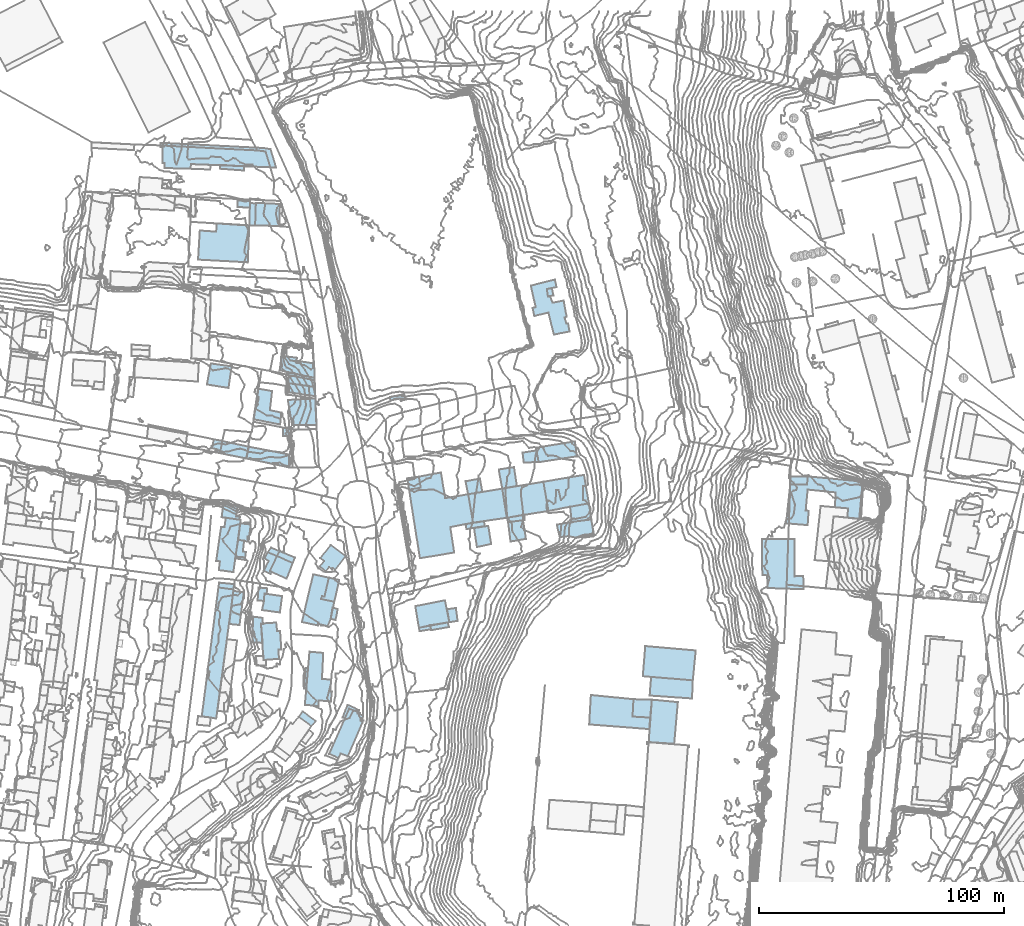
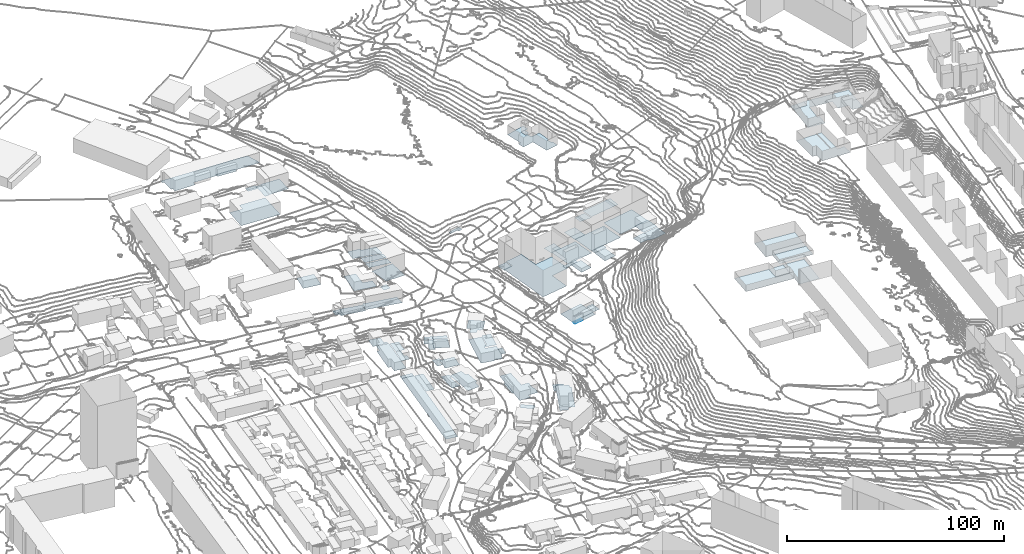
# Not in any storey, part 21 of 419: 70 footings.
"""IFC2X3 model written with IfcOpenShell, lengths in metres."""

from ifc_helpers import new_model, si_unit, frame, origin_with_axes, place, context, subcontext, project, faceted_brep, element, save


model = new_model("IFC2X3")

# Units and contexts
model_context = context("Model", 3, precision=1e-05, world=origin_with_axes())
body_context = subcontext(model_context, "Body", "Model", "MODEL_VIEW")
ifc_project = project(units=[si_unit("AREAUNIT", "SQUARE_METRE"), si_unit("LENGTHUNIT", "METRE")], contexts=[model_context])

# Footings
footing_1_placement = place(None, frame((586.9920204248, 808.9976909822, 41.813999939), z_axis=(0.0, 0.0, 1.0), x_axis=(1.0, 0.0, 0.0)))
element("IfcFooting", 1, at=footing_1_placement, Name="Sol 0", PredefinedType="STRIP_FOOTING", context=body_context, shape_type="Brep", body=[
    faceted_brep([(0.0, 0.0, 0.0), (1.2999999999, 7.6000000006, 0.0), (3.7, 7.2000000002, 0.0), (4.4, 2.6000000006, 0.0), (4.0, -0.5999999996, 0.0), (3.2, 2.8000000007, 0.0)], [[[0, 1, 2]], [[3, 4, 0]], [[0, 2, 5]], [[5, 3, 0]]]),
])
footing_2_placement = place(None, frame((615.4920204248, 749.1976909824, 45.7645987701), z_axis=(0.0, 0.0, 1.0), x_axis=(1.0, 0.0, 0.0)))
element("IfcFooting", 2, at=footing_2_placement, Name="Sol 0", PredefinedType="STRIP_FOOTING", context=body_context, shape_type="Brep", body=[
    faceted_brep([(0.0, 0.0, 0.0), (1.2999999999, 15.0, 0.0), (1.9, 21.7000000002, 0.0), (5.7, 1.7999999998, 0.0), (5.5, -0.5, 0.0), (11.0, 5.4000000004, 0.0), (10.6, 1.4000000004, 0.0), (7.0, 10.6000000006, 0.0), (10.7, 10.2999999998, 0.0), (10.4, 5.4000000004, 0.0), (7.5, 21.2000000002, 0.0)], [[[0, 1, 2]], [[3, 4, 0]], [[5, 6, 3]], [[7, 8, 9]], [[2, 10, 7]], [[3, 0, 2]], [[9, 5, 3]], [[3, 2, 7]], [[7, 9, 3]]]),
])
footing_3_placement = place(None, frame((625.3920204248, 729.1976909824, 48.9099983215), z_axis=(0.0, 0.0, 1.0), x_axis=(1.0, 0.0, 0.0)))
element("IfcFooting", 3, at=footing_3_placement, Name="Sol 0", PredefinedType="STRIP_FOOTING", context=body_context, shape_type="Brep", body=[
    faceted_brep([(14.0, 13.7000000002, 0.0), (7.6, -1.0, 0.0), (4.7, 0.1000000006, 0.0), (11.7, 16.5, 0.0), (13.8999999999, 15.5, 0.0), (13.2, 13.9000000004, 0.0), (8.2, 18.4000000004, 0.0), (11.8999999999, 17.0, 0.0), (3.7, -1.7000000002, 0.0), (0.0, 0.0, 0.0)], [[[0, 1, 2]], [[3, 4, 5]], [[6, 7, 3]], [[8, 9, 6]], [[5, 0, 2]], [[6, 3, 5]], [[2, 8, 6]], [[6, 5, 2]]]),
])
footing_4_placement = place(None, frame((580.1920204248, 797.0976909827, 41.4371005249), z_axis=(0.0, 0.0, 1.0), x_axis=(1.0, 0.0, 0.0)))
element("IfcFooting", 4, at=footing_4_placement, Name="Sol 0", PredefinedType="STRIP_FOOTING", context=body_context, shape_type="Brep", body=[
    faceted_brep([(6.1, -0.7999999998, 0.0), (0.0, 0.0, 0.0), (0.3, 2.0, 0.0), (6.4, 1.3999999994, 0.0)], [[[0, 1, 2]], [[2, 3, 0]]]),
])
footing_5_placement = place(None, frame((592.7920204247, 944.9976909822, 50.1320001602), z_axis=(0.0, 0.0, 1.0), x_axis=(1.0, 0.0, 0.0)))
element("IfcFooting", 5, at=footing_5_placement, Name="Sol 0", PredefinedType="STRIP_FOOTING", context=body_context, shape_type="Brep", body=[
    faceted_brep([(2.7000000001, 8.9000000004, 0.0), (2.4, 0.0, 0.0), (0.0, 0.0, 0.0), (0.3, 9.1000000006, 0.0)], [[[0, 1, 2]], [[2, 3, 0]]]),
])
footing_6_placement = place(None, frame((811.9920204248, 823.2976909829, 85.8652003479), z_axis=(0.0, 0.0, 1.0), x_axis=(1.0, 0.0, 0.0)))
element("IfcFooting", 6, at=footing_6_placement, Name="Sol 0", PredefinedType="STRIP_FOOTING", context=body_context, shape_type="Brep", body=[
    faceted_brep([(8.7999999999, -0.7000000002, 0.0), (0.0, 0.0, 0.0), (1.7, 15.8999999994, 0.0), (8.0, 5.2999999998, 0.0), (9.2, 5.0999999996, 0.0), (25.2999999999, 6.0999999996, 0.0), (19.9, 6.5999999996, 0.0), (20.2999999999, 12.5999999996, 0.0), (30.6, 1.6999999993, 0.0), (25.0, 2.2999999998, 0.0), (8.6, 15.7999999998, 0.0), (8.7999999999, 19.1999999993, 0.0), (31.5, 17.0, 0.0), (8.7999999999, 13.7999999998, 0.0)], [[[0, 1, 2]], [[3, 4, 0]], [[5, 6, 7]], [[8, 9, 5]], [[10, 11, 12]], [[3, 0, 2]], [[8, 5, 7]], [[3, 2, 10]], [[12, 8, 7]], [[13, 3, 10]], [[12, 7, 13]], [[13, 10, 12]]]),
])
footing_7_placement = place(None, frame((660.5920204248, 789.4976909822, 54.3660003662), z_axis=(0.0, 0.0, 1.0), x_axis=(1.0, 0.0, 0.0)))
element("IfcFooting", 7, at=footing_7_placement, Name="Sol 0", PredefinedType="STRIP_FOOTING", context=body_context, shape_type="Brep", body=[
    faceted_brep([(13.9, -6.5, 0.0), (1.5, -8.7999999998, 0.0), (0.0, 0.0, 0.0), (12.1, 2.4000000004, 0.0)], [[[0, 1, 2]], [[2, 3, 0]]]),
])
footing_8_placement = place(None, frame((606.4920204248, 862.0976909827, 44.4979988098), z_axis=(0.0, 0.0, 1.0), x_axis=(1.0, 0.0, 0.0)))
element("IfcFooting", 8, at=footing_8_placement, Name="Sol 0", PredefinedType="STRIP_FOOTING", context=body_context, shape_type="Brep", body=[
    faceted_brep([(0.0, 0.0, 0.0), (3.2999999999, 0.5, 0.0), (3.5, -3.0, 0.0), (0.1, -3.1000000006, 0.0)], [[[0, 1, 2]], [[2, 3, 0]]]),
])
footing_9_placement = place(None, frame((605.1920204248, 885.7976909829, 46.5244003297), z_axis=(0.0, 0.0, 1.0), x_axis=(1.0, 0.0, 0.0)))
element("IfcFooting", 9, at=footing_9_placement, Name="Sol 0", PredefinedType="STRIP_FOOTING", context=body_context, shape_type="Brep", body=[
    faceted_brep([(6.7000000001, 3.8999999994, 0.0), (14.1, 2.7999999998, 0.0), (14.3, -3.1000000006, 0.0), (0.8, 5.8999999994, 0.0), (7.1, 5.0999999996, 0.0), (0.0, 0.0, 0.0)], [[[0, 1, 2]], [[3, 4, 0]], [[2, 5, 3]], [[3, 0, 2]]]),
])
footing_10_placement = place(None, frame((595.1920204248, 944.9976909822, 50.2927998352), z_axis=(0.0, 0.0, 1.0), x_axis=(1.0, 0.0, 0.0)))
element("IfcFooting", 10, at=footing_10_placement, Name="Sol 0", PredefinedType="STRIP_FOOTING", context=body_context, shape_type="Brep", body=[
    faceted_brep([(10.1, 8.7000000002, 0.0), (9.9, -0.2999999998, 0.0), (0.0, 0.0, 0.0), (0.3, 9.2000000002, 0.0)], [[[0, 1, 2]], [[2, 3, 0]]]),
])
footing_11_placement = place(None, frame((753.4920204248, 760.8976909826, 71.2763980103), z_axis=(0.0, 0.0, 1.0), x_axis=(1.0, 0.0, 0.0)))
element("IfcFooting", 11, at=footing_11_placement, Name="Sol 0", PredefinedType="STRIP_FOOTING", context=body_context, shape_type="Brep", body=[
    faceted_brep([(20.4, -1.7000000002, 0.0), (3.4, -0.2999999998, 0.0), (0.0, 0.0, 0.0), (1.0, 12.2999999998, 0.0), (21.6, 10.5, 0.0)], [[[0, 1, 2]], [[3, 4, 0]], [[0, 2, 3]]]),
])
footing_12_placement = place(None, frame((594.4920204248, 865.7976909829, 44.244799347), z_axis=(0.0, 0.0, 1.0), x_axis=(1.0, 0.0, 0.0)))
element("IfcFooting", 12, at=footing_12_placement, Name="Sol 0", PredefinedType="STRIP_FOOTING", context=body_context, shape_type="Brep", body=[
    faceted_brep([(0.0, 0.0, 0.0), (1.9, 12.5, 0.0), (7.6, 11.5, 0.0), (11.4, 2.6999999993, 0.0), (10.9, -2.1000000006, 0.0), (6.7, 3.6999999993, 0.0)], [[[0, 1, 2]], [[3, 4, 0]], [[0, 2, 5]], [[5, 3, 0]]]),
])
footing_13_placement = place(None, frame((588.2920204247, 816.5976909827, 42.0689992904), z_axis=(0.0, 0.0, 1.0), x_axis=(1.0, 0.0, 0.0)))
element("IfcFooting", 13, at=footing_13_placement, Name="Sol 0", PredefinedType="STRIP_FOOTING", context=body_context, shape_type="Brep", body=[
    faceted_brep([(0.0, 0.0, 0.0), (0.8, 6.7000000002, 0.0), (5.1000000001, 6.2000000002, 0.0), (4.2000000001, -0.7999999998, 0.0)], [[[0, 1, 2]], [[2, 3, 0]]]),
])
footing_14_placement = place(None, frame((579.2920204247, 807.9976909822, 41.4112002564), z_axis=(0.0, 0.0, 1.0), x_axis=(1.0, 0.0, 0.0)))
element("IfcFooting", 14, at=footing_14_placement, Name="Sol 0", PredefinedType="STRIP_FOOTING", context=body_context, shape_type="Brep", body=[
    faceted_brep([(3.9, 17.6000000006, 0.0), (9.4, 16.8000000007, 0.0), (10.0, 16.6000000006, 0.0), (0.0, 0.0, 0.0), (2.0, 13.9000000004, 0.0), (3.4, 13.8000000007, 0.0), (7.0, -4.5999999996, 0.0), (1.1000000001, -3.7999999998, 0.0), (1.5, -0.1999999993, 0.0)], [[[0, 1, 2]], [[3, 4, 5]], [[6, 7, 8]], [[0, 2, 6]], [[8, 3, 5]], [[5, 0, 6]], [[6, 8, 5]]]),
])
footing_15_placement = place(None, frame((666.6920204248, 781.6976909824, 54.5365005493), z_axis=(0.0, 0.0, 1.0), x_axis=(1.0, 0.0, 0.0)))
element("IfcFooting", 15, at=footing_15_placement, Name="Sol 0", PredefinedType="STRIP_FOOTING", context=body_context, shape_type="Brep", body=[
    faceted_brep([(0.4, -2.0, 0.0), (0.3, -1.5999999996, 0.0), (0.0, 0.0, 0.0), (7.2000000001, 1.2000000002, 0.0), (7.6, -0.7000000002, 0.0)], [[[0, 1, 2]], [[3, 4, 0]], [[0, 2, 3]]]),
])
footing_16_placement = place(None, frame((630.8920204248, 743.9976909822, 48.7660001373), z_axis=(0.0, 0.0, 1.0), x_axis=(1.0, 0.0, 0.0)))
element("IfcFooting", 16, at=footing_16_placement, Name="Sol 0", PredefinedType="STRIP_FOOTING", context=body_context, shape_type="Brep", body=[
    faceted_brep([(6.7999999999, 3.0, 0.0), (6.3999999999, 2.2000000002, 0.0), (2.7, 3.6000000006, 0.0), (0.7999999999, -0.2999999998, 0.0), (0.0, 0.0, 0.0), (2.0, 5.2000000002, 0.0)], [[[0, 1, 2]], [[3, 4, 5]], [[5, 0, 2]], [[2, 3, 5]]]),
])
footing_17_placement = place(None, frame((622.1920204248, 792.3976909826, 47.4609009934), z_axis=(0.0, 0.0, 1.0), x_axis=(1.0, 0.0, 0.0)))
element("IfcFooting", 17, at=footing_17_placement, Name="Sol 0", PredefinedType="STRIP_FOOTING", context=body_context, shape_type="Brep", body=[
    faceted_brep([(1.3, 1.0, 0.0), (3.1, 8.7000000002, 0.0), (7.3, 7.7999999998, 0.0), (0.0, 0.0, 0.0), (0.3, 1.2000000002, 0.0), (5.3, -1.0999999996, 0.0)], [[[0, 1, 2]], [[3, 4, 0]], [[0, 2, 5]], [[5, 3, 0]]]),
])
footing_18_placement = place(None, frame((580.7920204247, 968.0976909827, 51.5150000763), z_axis=(0.0, 0.0, 1.0), x_axis=(1.0, 0.0, 0.0)))
element("IfcFooting", 18, at=footing_18_placement, Name="Sol 0", PredefinedType="STRIP_FOOTING", context=body_context, shape_type="Brep", body=[
    faceted_brep([(0.0, 0.0, 0.0), (0.0, 1.5999999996, 0.0), (9.8, 1.0, 0.0), (9.9, -0.7000000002, 0.0)], [[[0, 1, 2]], [[2, 3, 0]]]),
])
footing_19_placement = place(None, frame((604.0920204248, 809.8976909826, 47.4525003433), z_axis=(0.0, 0.0, 1.0), x_axis=(1.0, 0.0, 0.0)))
element("IfcFooting", 19, at=footing_19_placement, Name="Sol 0", PredefinedType="STRIP_FOOTING", context=body_context, shape_type="Brep", body=[
    faceted_brep([(7.3, -0.5999999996, 0.0), (6.4, -2.7999999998, 0.0), (0.0, 0.0, 0.0), (1.0, 2.0, 0.0)], [[[0, 1, 2]], [[2, 3, 0]]]),
])
footing_20_placement = place(None, frame((684.5920204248, 821.3976909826, 54.2764006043), z_axis=(0.0, 0.0, 1.0), x_axis=(1.0, 0.0, 0.0)))
element("IfcFooting", 20, at=footing_20_placement, Name="Sol 0", PredefinedType="STRIP_FOOTING", context=body_context, shape_type="Brep", body=[
    faceted_brep([(1.2, -7.7000000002, 0.0), (0.0, 0.0, 0.0), (5.8, 0.9000000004, 0.0), (7.0, -6.5, 0.0)], [[[0, 1, 2]], [[2, 3, 0]]]),
])
footing_21_placement = place(None, frame((682.1920204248, 835.1976909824, 53.6968000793), z_axis=(0.0, 0.0, 1.0), x_axis=(1.0, 0.0, 0.0)))
element("IfcFooting", 21, at=footing_21_placement, Name="Sol 0", PredefinedType="STRIP_FOOTING", context=body_context, shape_type="Brep", body=[
    faceted_brep([(15.8, -9.5999999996, 0.0), (2.0, -11.5999999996, 0.0), (0.0, 0.0, 0.0), (13.9, 2.2999999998, 0.0)], [[[0, 1, 2]], [[2, 3, 0]]]),
])
footing_22_placement = place(None, frame((681.1920204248, 822.9976909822, 53.7519998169), z_axis=(0.0, 0.0, 1.0), x_axis=(1.0, 0.0, 0.0)))
element("IfcFooting", 22, at=footing_22_placement, Name="Sol 0", PredefinedType="STRIP_FOOTING", context=body_context, shape_type="Brep", body=[
    faceted_brep([(0.3, -2.0, 0.0), (0.0, 0.0, 0.0), (7.5, 1.2000000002, 0.0), (7.7000000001, -0.7999999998, 0.0)], [[[0, 1, 2]], [[2, 3, 0]]]),
])
footing_23_placement = place(None, frame((577.5920204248, 853.9976909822, 43.6050014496), z_axis=(0.0, 0.0, 1.0), x_axis=(1.0, 0.0, 0.0)))
element("IfcFooting", 23, at=footing_23_placement, Name="Sol 0", PredefinedType="STRIP_FOOTING", context=body_context, shape_type="Brep", body=[
    faceted_brep([(0.7, 3.6000000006, 0.0), (4.2, 2.9000000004, 0.0), (3.2, -2.0, 0.0), (2.3, -0.5, 0.0), (0.0, 0.0, 0.0), (2.1, -1.7999999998, 0.0)], [[[0, 1, 2]], [[3, 4, 0]], [[2, 5, 3]], [[3, 0, 2]]]),
])
footing_24_placement = place(None, frame((755.8920204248, 733.9976909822, 71.4249992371), z_axis=(0.0, 0.0, 1.0), x_axis=(1.0, 0.0, 0.0)))
element("IfcFooting", 24, at=footing_24_placement, Name="Sol 0", PredefinedType="STRIP_FOOTING", context=body_context, shape_type="Brep", body=[
    faceted_brep([(11.8999999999, 16.3000000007, 0.0), (10.3999999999, -0.6999999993, 0.0), (0.0, 0.0, 0.0), (1.2999999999, 17.3000000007, 0.0)], [[[0, 1, 2]], [[2, 3, 0]]]),
])
footing_25_placement = place(None, frame((696.0920204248, 837.4976909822, 54.8805000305), z_axis=(0.0, 0.0, 1.0), x_axis=(1.0, 0.0, 0.0)))
element("IfcFooting", 25, at=footing_25_placement, Name="Sol 0", PredefinedType="STRIP_FOOTING", context=body_context, shape_type="Brep", body=[
    faceted_brep([(1.9, -11.8999999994, 0.0), (0.0, 0.0, 0.0), (16.8, 2.8000000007, 0.0), (18.9, -9.0999999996, 0.0)], [[[0, 1, 2]], [[2, 3, 0]]]),
])
footing_26_placement = place(None, frame((600.2920204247, 811.4976909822, 47.4525003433), z_axis=(0.0, 0.0, 1.0), x_axis=(1.0, 0.0, 0.0)))
element("IfcFooting", 26, at=footing_26_placement, Name="Sol 0", PredefinedType="STRIP_FOOTING", context=body_context, shape_type="Brep", body=[
    faceted_brep([(1.3, 1.9000000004, 0.0), (4.8, 0.4000000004, 0.0), (3.8, -1.5999999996, 0.0), (0.0, 0.0, 0.0)], [[[0, 1, 2]], [[2, 3, 0]]]),
])
footing_27_placement = place(None, frame((581.4920204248, 825.7976909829, 41.6546007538), z_axis=(0.0, 0.0, 1.0), x_axis=(1.0, 0.0, 0.0)))
element("IfcFooting", 27, at=footing_27_placement, Name="Sol 0", PredefinedType="STRIP_FOOTING", context=body_context, shape_type="Brep", body=[
    faceted_brep([(0.7999999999, 5.5999999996, 0.0), (6.5, 4.3999999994, 0.0), (6.0, 0.2999999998, 0.0), (7.2, -1.0, 0.0), (0.0, 0.0, 0.0), (7.5, 0.0999999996, 0.0)], [[[0, 1, 2]], [[3, 4, 0]], [[2, 5, 3]], [[3, 0, 2]]]),
])
footing_28_placement = place(None, frame((756.2920204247, 752.9976909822, 71.2763980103), z_axis=(0.0, 0.0, 1.0), x_axis=(1.0, 0.0, 0.0)))
element("IfcFooting", 28, at=footing_28_placement, Name="Sol 0", PredefinedType="STRIP_FOOTING", context=body_context, shape_type="Brep", body=[
    faceted_brep([(0.0, 0.0, 0.0), (0.6000000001, 7.6000000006, 0.0), (17.6000000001, 6.2000000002, 0.0), (17.3, -1.1999999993, 0.0)], [[[0, 1, 2]], [[2, 3, 0]]]),
])
footing_29_placement = place(None, frame((650.1920204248, 874.7976909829, 52.295199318), z_axis=(0.0, 0.0, 1.0), x_axis=(1.0, 0.0, 0.0)))
element("IfcFooting", 29, at=footing_29_placement, Name="Sol 0", PredefinedType="STRIP_FOOTING", context=body_context, shape_type="Brep", body=[
    faceted_brep([(4.2000000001, -0.5, 0.0), (0.3, -1.3000000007, 0.0), (0.0, 0.0, 0.0), (6.6, -0.9000000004, 0.0), (4.5, -1.5, 0.0), (5.9, 1.3999999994, 0.0)], [[[0, 1, 2]], [[3, 4, 0]], [[0, 2, 5]], [[5, 3, 0]]]),
])
footing_30_placement = place(None, frame((596.1920204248, 791.8976909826, 46.0429992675), z_axis=(0.0, 0.0, 1.0), x_axis=(1.0, 0.0, 0.0)))
element("IfcFooting", 30, at=footing_30_placement, Name="Sol 0", PredefinedType="STRIP_FOOTING", context=body_context, shape_type="Brep", body=[
    faceted_brep([(2.8, 2.7000000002, 0.0), (2.6, -0.2999999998, 0.0), (0.0, 0.0, 0.0), (3.9, 4.9000000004, 0.0), (3.7000000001, 2.5, 0.0), (0.4, 5.2000000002, 0.0)], [[[0, 1, 2]], [[3, 4, 0]], [[2, 5, 3]], [[3, 0, 2]]]),
])
footing_31_placement = place(None, frame((658.0920204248, 837.0976909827, 51.3250007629), z_axis=(0.0, 0.0, 1.0), x_axis=(1.0, 0.0, 0.0)))
element("IfcFooting", 31, at=footing_31_placement, Name="Sol 0", PredefinedType="STRIP_FOOTING", context=body_context, shape_type="Brep", body=[
    faceted_brep([(4.4, -28.0, 0.0), (0.0, 0.0, 0.0), (4.7, 0.7999999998, 0.0), (16.8, -15.2999999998, 0.0), (18.4, -25.7000000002, 0.0), (24.1, -1.9000000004, 0.0), (26.1, -13.5, 0.0), (4.0, 5.2999999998, 0.0), (13.0, 7.0, 0.0), (14.7, -3.5, 0.0)], [[[0, 1, 2]], [[3, 4, 0]], [[5, 6, 3]], [[7, 8, 9]], [[3, 0, 2]], [[9, 5, 3]], [[2, 7, 9]], [[9, 3, 2]]]),
])
footing_32_placement = place(None, frame((731.5920204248, 741.1976909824, 71.3399963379), z_axis=(0.0, 0.0, 1.0), x_axis=(1.0, 0.0, 0.0)))
element("IfcFooting", 32, at=footing_32_placement, Name="Sol 0", PredefinedType="STRIP_FOOTING", context=body_context, shape_type="Brep", body=[
    faceted_brep([(24.9, 2.7999999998, 0.0), (24.5, -1.8999999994, 0.0), (0.0, 0.0, 0.0), (0.7, 12.0, 0.0), (18.1, 10.2999999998, 0.0), (17.7, 3.2000000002, 0.0)], [[[0, 1, 2]], [[3, 4, 5]], [[5, 0, 2]], [[2, 3, 5]]]),
])
footing_33_placement = place(None, frame((802.1920204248, 816.8976909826, 85.8012005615), z_axis=(0.0, 0.0, 1.0), x_axis=(1.0, 0.0, 0.0)))
element("IfcFooting", 33, at=footing_33_placement, Name="Sol 0", PredefinedType="STRIP_FOOTING", context=body_context, shape_type="Brep", body=[
    faceted_brep([(0.1, -14.7000000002, 0.0), (0.0, 0.0, 0.0), (13.3, 0.0, 0.0), (17.0, -20.5, 0.0), (2.2000000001, -20.0, 0.0), (2.1, -14.7999999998, 0.0), (13.2000000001, -15.2000000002, 0.0), (16.8, -15.0, 0.0)], [[[0, 1, 2]], [[3, 4, 5]], [[6, 7, 3]], [[0, 2, 6]], [[6, 3, 5]], [[5, 0, 6]]]),
])
footing_34_placement = place(None, frame((749.2920204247, 744.3976909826, 71.3581008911), z_axis=(0.0, 0.0, 1.0), x_axis=(1.0, 0.0, 0.0)))
element("IfcFooting", 34, at=footing_34_placement, Name="Sol 0", PredefinedType="STRIP_FOOTING", context=body_context, shape_type="Brep", body=[
    faceted_brep([(0.4, 7.0999999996, 0.0), (7.9, 6.9000000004, 0.0), (7.2000000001, -0.4000000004, 0.0), (0.0, 0.0, 0.0)], [[[0, 1, 2]], [[2, 3, 0]]]),
])
footing_35_placement = place(None, frame((698.4920204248, 823.7976909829, 54.6379997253), z_axis=(0.0, 0.0, 1.0), x_axis=(1.0, 0.0, 0.0)))
element("IfcFooting", 35, at=footing_35_placement, Name="Sol 0", PredefinedType="STRIP_FOOTING", context=body_context, shape_type="Brep", body=[
    faceted_brep([(1.0, -7.9000000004, 0.0), (0.0, 0.0, 0.0), (6.1, 0.7999999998, 0.0), (7.2999999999, -6.8000000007, 0.0)], [[[0, 1, 2]], [[2, 3, 0]]]),
])
footing_36_placement = place(None, frame((712.8920204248, 840.2976909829, 56.627100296), z_axis=(0.0, 0.0, 1.0), x_axis=(1.0, 0.0, 0.0)))
element("IfcFooting", 36, at=footing_36_placement, Name="Sol 0", PredefinedType="STRIP_FOOTING", context=body_context, shape_type="Brep", body=[
    faceted_brep([(16.6, 2.7999999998, 0.0), (18.6, -8.8000000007, 0.0), (10.8999999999, -10.2000000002, 0.0), (2.1, -11.9000000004, 0.0), (0.0, 0.0, 0.0)], [[[0, 1, 2]], [[3, 4, 0]], [[0, 2, 3]]]),
])
footing_37_placement = place(None, frame((723.7920204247, 830.0976909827, 57.0904008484), z_axis=(0.0, 0.0, 1.0), x_axis=(1.0, 0.0, 0.0)))
element("IfcFooting", 37, at=footing_37_placement, Name="Sol 0", PredefinedType="STRIP_FOOTING", context=body_context, shape_type="Brep", body=[
    faceted_brep([(0.0, 0.0, 0.0), (7.7000000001, 1.3999999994, 0.0), (8.7000000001, -5.2000000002, 0.0), (0.7000000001, -6.2000000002, 0.0)], [[[0, 1, 2]], [[2, 3, 0]]]),
])
footing_38_placement = place(None, frame((704.3920204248, 852.1976909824, 55.3128010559), z_axis=(0.0, 0.0, 1.0), x_axis=(1.0, 0.0, 0.0)))
element("IfcFooting", 38, at=footing_38_placement, Name="Sol 0", PredefinedType="STRIP_FOOTING", context=body_context, shape_type="Brep", body=[
    faceted_brep([(0.0, 0.0, 0.0), (5.7, 0.9000000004, 0.0), (6.6, -3.8999999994, 0.0), (0.5, -4.0, 0.0)], [[[0, 1, 2]], [[2, 3, 0]]]),
])
footing_39_placement = place(None, frame((813.6920204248, 839.1976909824, 85.8652003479), z_axis=(0.0, 0.0, 1.0), x_axis=(1.0, 0.0, 0.0)))
element("IfcFooting", 39, at=footing_39_placement, Name="Sol 0", PredefinedType="STRIP_FOOTING", context=body_context, shape_type="Brep", body=[
    faceted_brep([(0.0, 0.0, 0.0), (0.0, 3.2000000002, 0.0), (7.1, 3.2999999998, 0.0), (6.9, -0.0999999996, 0.0)], [[[0, 1, 2]], [[2, 3, 0]]]),
])
footing_40_placement = place(None, frame((587.9920204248, 952.4976909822, 50.0516007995), z_axis=(0.0, 0.0, 1.0), x_axis=(1.0, 0.0, 0.0)))
element("IfcFooting", 40, at=footing_40_placement, Name="Sol 0", PredefinedType="STRIP_FOOTING", context=body_context, shape_type="Brep", body=[
    faceted_brep([(0.1, 2.7000000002, 0.0), (5.2, 2.4000000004, 0.0), (5.1, 1.6000000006, 0.0), (5.1, -0.2999999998, 0.0), (0.0, 0.0, 0.0)], [[[0, 1, 2]], [[3, 4, 0]], [[0, 2, 3]]]),
])
footing_41_placement = place(None, frame((681.0920204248, 840.4976909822, 53.3359985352), z_axis=(0.0, 0.0, 1.0), x_axis=(1.0, 0.0, 0.0)))
element("IfcFooting", 41, at=footing_41_placement, Name="Sol 0", PredefinedType="STRIP_FOOTING", context=body_context, shape_type="Brep", body=[
    faceted_brep([(6.9, -4.2999999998, 0.0), (1.1, -5.2999999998, 0.0), (0.0, 0.0, 0.0), (5.9, 1.1000000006, 0.0)], [[[0, 1, 2]], [[2, 3, 0]]]),
])
footing_42_placement = place(None, frame((694.6920204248, 845.2976909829, 54.630899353), z_axis=(0.0, 0.0, 1.0), x_axis=(1.0, 0.0, 0.0)))
element("IfcFooting", 42, at=footing_42_placement, Name="Sol 0", PredefinedType="STRIP_FOOTING", context=body_context, shape_type="Brep", body=[
    faceted_brep([(7.4, -6.7000000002, 0.0), (1.4, -7.8000000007, 0.0), (0.0, 0.0, 0.0), (6.2000000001, 1.0, 0.0)], [[[0, 1, 2]], [[2, 3, 0]]]),
])
footing_43_placement = place(None, frame((597.9920204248, 787.8976909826, 46.6319999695), z_axis=(0.0, 0.0, 1.0), x_axis=(1.0, 0.0, 0.0)))
element("IfcFooting", 43, at=footing_43_placement, Name="Sol 0", PredefinedType="STRIP_FOOTING", context=body_context, shape_type="Brep", body=[
    faceted_brep([(7.2999999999, -1.0, 0.0), (0.0, 0.0, 0.0), (0.7999999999, 3.7000000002, 0.0), (1.0, 6.7000000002, 0.0), (8.2, 5.7000000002, 0.0)], [[[0, 1, 2]], [[3, 4, 0]], [[0, 2, 3]]]),
])
footing_44_placement = place(None, frame((614.2920204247, 782.9976909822, 46.7222002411), z_axis=(0.0, 0.0, 1.0), x_axis=(1.0, 0.0, 0.0)))
element("IfcFooting", 44, at=footing_44_placement, Name="Sol 0", PredefinedType="STRIP_FOOTING", context=body_context, shape_type="Brep", body=[
    faceted_brep([(11.7000000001, 1.3000000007, 0.0), (10.4, -1.6999999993, 0.0), (6.5, -0.6999999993, 0.0), (7.9, 9.4000000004, 0.0), (13.2000000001, 8.3000000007, 0.0), (11.0, 18.1000000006, 0.0), (9.2000000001, 10.4000000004, 0.0), (8.2000000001, 10.6000000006, 0.0), (0.0, 0.0, 0.0), (4.6000000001, 19.5, 0.0), (6.5, -1.3999999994, 0.0)], [[[0, 1, 2]], [[3, 4, 0]], [[5, 6, 7]], [[8, 9, 5]], [[2, 10, 8]], [[3, 0, 2]], [[8, 5, 7]], [[3, 2, 8]], [[8, 7, 3]]]),
])
footing_45_placement = place(None, frame((608.8920204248, 880.4976909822, 45.5800006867), z_axis=(0.0, 0.0, 1.0), x_axis=(1.0, 0.0, 0.0)))
element("IfcFooting", 45, at=footing_45_placement, Name="Sol 0", PredefinedType="STRIP_FOOTING", context=body_context, shape_type="Brep", body=[
    faceted_brep([(0.0, 0.0, 0.0), (10.7, -1.5, 0.0), (10.8999999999, -5.2999999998, 0.0), (0.2, -3.6999999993, 0.0)], [[[0, 1, 2]], [[2, 3, 0]]]),
])
footing_46_placement = place(None, frame((584.5920204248, 782.1976909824, 41.7473012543), z_axis=(0.0, 0.0, 1.0), x_axis=(1.0, 0.0, 0.0)))
element("IfcFooting", 46, at=footing_46_placement, Name="Sol 0", PredefinedType="STRIP_FOOTING", context=body_context, shape_type="Brep", body=[
    faceted_brep([(0.0, 0.0, 0.0), (1.7, 13.5, 0.0), (6.0, 13.0, 0.0), (4.2, -0.3999999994, 0.0)], [[[0, 1, 2]], [[2, 3, 0]]]),
])
footing_47_placement = place(None, frame((575.4920204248, 879.9976909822, 43.6664001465), z_axis=(0.0, 0.0, 1.0), x_axis=(1.0, 0.0, 0.0)))
element("IfcFooting", 47, at=footing_47_placement, Name="Sol 0", PredefinedType="STRIP_FOOTING", context=body_context, shape_type="Brep", body=[
    faceted_brep([(0.0, 0.0, 0.0), (1.6, 8.6000000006, 0.0), (10.1, 7.4000000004, 0.0), (8.7999999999, -1.3999999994, 0.0)], [[[0, 1, 2]], [[2, 3, 0]]]),
])
footing_48_placement = place(None, frame((615.1920204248, 755.8976909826, 45.9370002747), z_axis=(0.0, 0.0, 1.0), x_axis=(1.0, 0.0, 0.0)))
element("IfcFooting", 48, at=footing_48_placement, Name="Sol 0", PredefinedType="STRIP_FOOTING", context=body_context, shape_type="Brep", body=[
    faceted_brep([(0.0, 0.0, 0.0), (0.6, 8.4000000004, 0.0), (1.6, 8.2999999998, 0.0), (0.9, -0.0999999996, 0.0)], [[[0, 1, 2]], [[2, 3, 0]]]),
])
footing_49_placement = place(None, frame((707.7920204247, 920.3976909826, 59.5370002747), z_axis=(0.0, 0.0, 1.0), x_axis=(1.0, 0.0, 0.0)))
element("IfcFooting", 49, at=footing_49_placement, Name="Sol 0", PredefinedType="STRIP_FOOTING", context=body_context, shape_type="Brep", body=[
    faceted_brep([(0.0, 0.0, 0.0), (9.8, 2.5, 0.0), (10.5, -0.5999999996, 0.0), (1.4, -12.4000000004, 0.0), (0.7000000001, -9.0999999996, 0.0), (2.0, -8.7999999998, 0.0), (15.8, -18.7000000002, 0.0), (9.4, -20.0, 0.0), (7.2000000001, -11.0, 0.0), (14.5, -15.5, 0.0), (15.2000000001, -15.5, 0.0), (13.4, -6.0999999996, 0.0), (14.6000000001, -12.7000000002, 0.0), (13.8, -13.0, 0.0), (7.0, -4.4000000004, 0.0), (8.0, -4.4000000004, 0.0), (8.8, -7.0, 0.0), (6.5, -1.4000000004, 0.0)], [[[0, 1, 2]], [[3, 4, 5]], [[6, 7, 8]], [[9, 10, 6]], [[11, 12, 13]], [[14, 15, 16]], [[0, 2, 17]], [[8, 3, 5]], [[9, 6, 8]], [[16, 11, 13]], [[0, 17, 14]], [[8, 5, 0]], [[13, 9, 8]], [[0, 14, 16]], [[13, 8, 0]], [[0, 16, 13]]]),
])
footing_50_placement = place(None, frame((714.2920204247, 918.9976909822, 59.7019989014), z_axis=(0.0, 0.0, 1.0), x_axis=(1.0, 0.0, 0.0)))
element("IfcFooting", 50, at=footing_50_placement, Name="Sol 0", PredefinedType="STRIP_FOOTING", context=body_context, shape_type="Brep", body=[
    faceted_brep([(0.0, 0.0, 0.0), (2.1000000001, 0.3000000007, 0.0), (2.7000000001, -2.5999999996, 0.0), (0.5, -3.0, 0.0)], [[[0, 1, 2]], [[2, 3, 0]]]),
])
footing_51_placement = place(None, frame((591.4920204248, 849.7976909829, 44.3993997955), z_axis=(0.0, 0.0, 1.0), x_axis=(1.0, 0.0, 0.0)))
element("IfcFooting", 51, at=footing_51_placement, Name="Sol 0", PredefinedType="STRIP_FOOTING", context=body_context, shape_type="Brep", body=[
    faceted_brep([(17.6, 1.5999999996, 0.0), (17.6, -3.6000000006, 0.0), (0.0, 0.0, 0.0), (1.0, 4.7999999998, 0.0)], [[[0, 1, 2]], [[2, 3, 0]]]),
])
footing_52_placement = place(None, frame((657.2920204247, 841.6976909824, 50.9186004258), z_axis=(0.0, 0.0, 1.0), x_axis=(1.0, 0.0, 0.0)))
element("IfcFooting", 52, at=footing_52_placement, Name="Sol 0", PredefinedType="STRIP_FOOTING", context=body_context, shape_type="Brep", body=[
    faceted_brep([(5.5, -3.7999999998, 0.0), (0.8, -4.5999999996, 0.0), (0.0, 0.0, 0.0), (4.8, 0.7000000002, 0.0)], [[[0, 1, 2]], [[2, 3, 0]]]),
])
footing_53_placement = place(None, frame((718.3920204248, 822.7976909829, 56.6787989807), z_axis=(0.0, 0.0, 1.0), x_axis=(1.0, 0.0, 0.0)))
element("IfcFooting", 53, at=footing_53_placement, Name="Sol 0", PredefinedType="STRIP_FOOTING", context=body_context, shape_type="Brep", body=[
    faceted_brep([(0.0, 0.0, 0.0), (6.1, 1.0999999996, 0.0), (14.1, 2.0999999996, 0.0), (4.6, -4.7000000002, 0.0), (1.2, -5.1000000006, 0.0), (15.1, -4.1000000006, 0.0), (7.8999999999, -5.4000000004, 0.0)], [[[0, 1, 2]], [[3, 4, 0]], [[5, 6, 3]], [[0, 2, 5]], [[5, 3, 0]]]),
])
footing_54_placement = place(None, frame((573.3920204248, 744.4976909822, 41.4899991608), z_axis=(0.0, 0.0, 1.0), x_axis=(1.0, 0.0, 0.0)))
element("IfcFooting", 54, at=footing_54_placement, Name="Sol 0", PredefinedType="STRIP_FOOTING", context=body_context, shape_type="Brep", body=[
    faceted_brep([(12.8999999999, 51.2000000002, 0.0), (5.8999999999, -0.8999999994, 0.0), (3.7, -0.5, 0.0), (6.7999999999, 52.6000000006, 0.0), (12.8999999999, 51.8000000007, 0.0), (0.0, 0.0, 0.0)], [[[0, 1, 2]], [[3, 4, 0]], [[2, 5, 3]], [[3, 0, 2]]]),
])
footing_55_placement = place(None, frame((621.4920204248, 805.5976909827, 47.9875999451), z_axis=(0.0, 0.0, 1.0), x_axis=(1.0, 0.0, 0.0)))
element("IfcFooting", 55, at=footing_55_placement, Name="Sol 0", PredefinedType="STRIP_FOOTING", context=body_context, shape_type="Brep", body=[
    faceted_brep([(2.5, -1.7999999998, 0.0), (0.0, 0.0, 0.0), (1.7999999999, 2.3999999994, 0.0), (5.4, -0.5, 0.0), (5.0, -1.1000000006, 0.0), (3.9, -0.2000000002, 0.0), (10.6, 4.2999999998, 0.0), (6.4, -1.2000000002, 0.0), (0.2999999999, 3.5, 0.0), (4.5, 8.8999999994, 0.0)], [[[0, 1, 2]], [[3, 4, 5]], [[6, 7, 3]], [[8, 9, 6]], [[5, 0, 2]], [[6, 3, 5]], [[2, 8, 6]], [[6, 5, 2]]]),
])
footing_56_placement = place(None, frame((580.7920204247, 851.9976909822, 43.8009998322), z_axis=(0.0, 0.0, 1.0), x_axis=(1.0, 0.0, 0.0)))
element("IfcFooting", 56, at=footing_56_placement, Name="Sol 0", PredefinedType="STRIP_FOOTING", context=body_context, shape_type="Brep", body=[
    faceted_brep([(0.0, 0.0, 0.0), (1.0, 4.9000000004, 0.0), (11.7000000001, 2.6000000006, 0.0), (10.7000000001, -2.1999999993, 0.0)], [[[0, 1, 2]], [[2, 3, 0]]]),
])
footing_57_placement = place(None, frame((598.6920204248, 803.8976909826, 47.1650007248), z_axis=(0.0, 0.0, 1.0), x_axis=(1.0, 0.0, 0.0)))
element("IfcFooting", 57, at=footing_57_placement, Name="Sol 0", PredefinedType="STRIP_FOOTING", context=body_context, shape_type="Brep", body=[
    faceted_brep([(2.5, -0.0999999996, 0.0), (3.1, -0.4000000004, 0.0), (2.7000000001, -1.2000000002, 0.0), (1.6, 7.5999999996, 0.0), (5.4, 6.0, 0.0), (2.0, 4.0999999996, 0.0), (0.3, 5.0, 0.0), (0.0, 0.0, 0.0)], [[[0, 1, 2]], [[3, 4, 0]], [[5, 6, 3]], [[0, 2, 7]], [[5, 3, 0]], [[0, 7, 5]]]),
])
footing_58_placement = place(None, frame((601.1920204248, 803.7976909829, 47.1959999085), z_axis=(0.0, 0.0, 1.0), x_axis=(1.0, 0.0, 0.0)))
element("IfcFooting", 58, at=footing_58_placement, Name="Sol 0", PredefinedType="STRIP_FOOTING", context=body_context, shape_type="Brep", body=[
    faceted_brep([(2.9, 6.0999999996, 0.0), (9.3, 3.2999999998, 0.0), (6.8, -3.1000000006, 0.0), (0.0, 0.0, 0.0)], [[[0, 1, 2]], [[2, 3, 0]]]),
])
footing_59_placement = place(None, frame((593.9920204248, 774.6976909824, 44.7739998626), z_axis=(0.0, 0.0, 1.0), x_axis=(1.0, 0.0, 0.0)))
element("IfcFooting", 59, at=footing_59_placement, Name="Sol 0", PredefinedType="STRIP_FOOTING", context=body_context, shape_type="Brep", body=[
    faceted_brep([(3.6, 7.7000000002, 0.0), (4.2999999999, -0.2000000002, 0.0), (0.0, 0.0, 0.0), (4.2, 10.0, 0.0), (4.4, 7.6000000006, 0.0), (0.4, 10.5, 0.0)], [[[0, 1, 2]], [[3, 4, 0]], [[2, 5, 3]], [[3, 0, 2]]]),
])
footing_60_placement = place(None, frame((625.9920204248, 784.2976909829, 47.115200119), z_axis=(0.0, 0.0, 1.0), x_axis=(1.0, 0.0, 0.0)))
element("IfcFooting", 60, at=footing_60_placement, Name="Sol 0", PredefinedType="STRIP_FOOTING", context=body_context, shape_type="Brep", body=[
    faceted_brep([(0.0, 0.0, 0.0), (0.7999999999, 4.5999999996, 0.0), (2.9, 4.0, 0.0), (2.0, -0.5, 0.0)], [[[0, 1, 2]], [[2, 3, 0]]]),
])
footing_61_placement = place(None, frame((662.0920204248, 780.6976909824, 54.373999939), z_axis=(0.0, 0.0, 1.0), x_axis=(1.0, 0.0, 0.0)))
element("IfcFooting", 61, at=footing_61_placement, Name="Sol 0", PredefinedType="STRIP_FOOTING", context=body_context, shape_type="Brep", body=[
    faceted_brep([(4.6, 1.0, 0.0), (4.9, -0.5999999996, 0.0), (0.3, -1.3999999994, 0.0), (0.0, 0.0, 0.0)], [[[0, 1, 2]], [[2, 3, 0]]]),
])
footing_62_placement = place(None, frame((612.9920204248, 744.2976909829, 45.513600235), z_axis=(0.0, 0.0, 1.0), x_axis=(1.0, 0.0, 0.0)))
element("IfcFooting", 62, at=footing_62_placement, Name="Sol 0", PredefinedType="STRIP_FOOTING", context=body_context, shape_type="Brep", body=[
    faceted_brep([(6.9, -1.7000000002, 0.0), (5.1, -3.8000000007, 0.0), (0.0, 0.0, 0.0), (1.5, 2.1999999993, 0.0)], [[[0, 1, 2]], [[2, 3, 0]]]),
])
footing_63_placement = place(None, frame((608.7920204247, 884.7976909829, 46.2310001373), z_axis=(0.0, 0.0, 1.0), x_axis=(1.0, 0.0, 0.0)))
element("IfcFooting", 63, at=footing_63_placement, Name="Sol 0", PredefinedType="STRIP_FOOTING", context=body_context, shape_type="Brep", body=[
    faceted_brep([(0.0, 0.0, 0.0), (10.7000000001, -2.1000000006, 0.0), (10.8, -5.8000000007, 0.0), (0.1000000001, -4.3000000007, 0.0)], [[[0, 1, 2]], [[2, 3, 0]]]),
])
footing_64_placement = place(None, frame((697.9920204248, 825.5976909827, 54.8258005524), z_axis=(0.0, 0.0, 1.0), x_axis=(1.0, 0.0, 0.0)))
element("IfcFooting", 64, at=footing_64_placement, Name="Sol 0", PredefinedType="STRIP_FOOTING", context=body_context, shape_type="Brep", body=[
    faceted_brep([(0.5, -1.7999999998, 0.0), (0.0, 0.0, 0.0), (7.1, 1.2999999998, 0.0), (7.2999999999, -0.9000000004, 0.0)], [[[0, 1, 2]], [[2, 3, 0]]]),
])
footing_65_placement = place(None, frame((673.5920204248, 788.1976909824, 54.6268000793), z_axis=(0.0, 0.0, 1.0), x_axis=(1.0, 0.0, 0.0)))
element("IfcFooting", 65, at=footing_65_placement, Name="Sol 0", PredefinedType="STRIP_FOOTING", context=body_context, shape_type="Brep", body=[
    faceted_brep([(0.9, -5.2000000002, 0.0), (0.0, 0.0, 0.0), (3.6, 0.6000000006, 0.0), (4.3, -4.7000000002, 0.0)], [[[0, 1, 2]], [[2, 3, 0]]]),
])
footing_66_placement = place(None, frame((608.5920204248, 873.6976909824, 45.5710010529), z_axis=(0.0, 0.0, 1.0), x_axis=(1.0, 0.0, 0.0)))
element("IfcFooting", 66, at=footing_66_placement, Name="Sol 0", PredefinedType="STRIP_FOOTING", context=body_context, shape_type="Brep", body=[
    faceted_brep([(0.0, 0.0, 0.0), (11.2, 0.6000000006, 0.0), (11.7, -10.2999999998, 0.0), (1.7, -10.2000000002, 0.0)], [[[0, 1, 2]], [[2, 3, 0]]]),
])
footing_67_placement = place(None, frame((556.4920204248, 976.9976909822, 51.0254006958), z_axis=(0.0, 0.0, 1.0), x_axis=(1.0, 0.0, 0.0)))
element("IfcFooting", 67, at=footing_67_placement, Name="Sol 0", PredefinedType="STRIP_FOOTING", context=body_context, shape_type="Brep", body=[
    faceted_brep([(0.0, 1.7000000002, 0.0), (41.7, -0.3999999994, 0.0), (45.0, -0.8999999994, 0.0), (0.9, 0.0, 0.0), (0.0, 0.0, 0.0), (1.7999999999, -6.5, 0.0), (0.7999999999, -6.5999999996, 0.0), (12.2999999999, -8.8999999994, 0.0), (1.7, -8.5999999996, 0.0), (47.2999999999, -8.3999999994, 0.0), (12.5, -7.0, 0.0)], [[[0, 1, 2]], [[3, 4, 0]], [[5, 6, 3]], [[7, 8, 5]], [[2, 9, 10]], [[3, 0, 2]], [[7, 5, 3]], [[3, 2, 10]], [[10, 7, 3]]]),
])
footing_68_placement = place(None, frame((571.8920204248, 930.9976909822, 49.2930014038), z_axis=(0.0, 0.0, 1.0), x_axis=(1.0, 0.0, 0.0)))
element("IfcFooting", 68, at=footing_68_placement, Name="Sol 0", PredefinedType="STRIP_FOOTING", context=body_context, shape_type="Brep", body=[
    faceted_brep([(7.6, 14.8000000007, 0.0), (20.8999999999, 14.0, 0.0), (20.2999999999, -1.0999999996, 0.0), (0.0, 0.0, 0.0), (0.7, 11.9000000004, 0.0), (7.3999999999, 11.4000000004, 0.0)], [[[0, 1, 2]], [[3, 4, 5]], [[5, 0, 2]], [[2, 3, 5]]]),
])
footing_69_placement = place(None, frame((597.5920204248, 782.3976909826, 46.0352000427), z_axis=(0.0, 0.0, 1.0), x_axis=(1.0, 0.0, 0.0)))
element("IfcFooting", 69, at=footing_69_placement, Name="Sol 0", PredefinedType="STRIP_FOOTING", context=body_context, shape_type="Brep", body=[
    faceted_brep([(7.3, -14.4000000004, 0.0), (2.0, -14.7999999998, 0.0), (1.0, -14.7999999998, 0.0), (7.8, -3.0, 0.0), (8.3, -10.7000000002, 0.0), (7.2, -10.7000000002, 0.0), (0.0, 0.0, 0.0), (6.2, 0.4000000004, 0.0), (6.6, -3.0999999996, 0.0)], [[[0, 1, 2]], [[3, 4, 5]], [[6, 7, 8]], [[0, 2, 6]], [[8, 3, 5]], [[0, 6, 8]], [[8, 5, 0]]]),
])
footing_70_placement = place(None, frame((709.8920204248, 854.1976909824, 55.8783997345), z_axis=(0.0, 0.0, 1.0), x_axis=(1.0, 0.0, 0.0)))
element("IfcFooting", 70, at=footing_70_placement, Name="Sol 0", PredefinedType="STRIP_FOOTING", context=body_context, shape_type="Brep", body=[
    faceted_brep([(1.1, -5.8999999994, 0.0), (0.2, -1.0999999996, 0.0), (0.0, 0.0, 0.0), (15.8999999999, 2.6000000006, 0.0), (16.7, -3.5, 0.0)], [[[0, 1, 2]], [[3, 4, 0]], [[0, 2, 3]]]),
])

save(model, "model.ifc")
